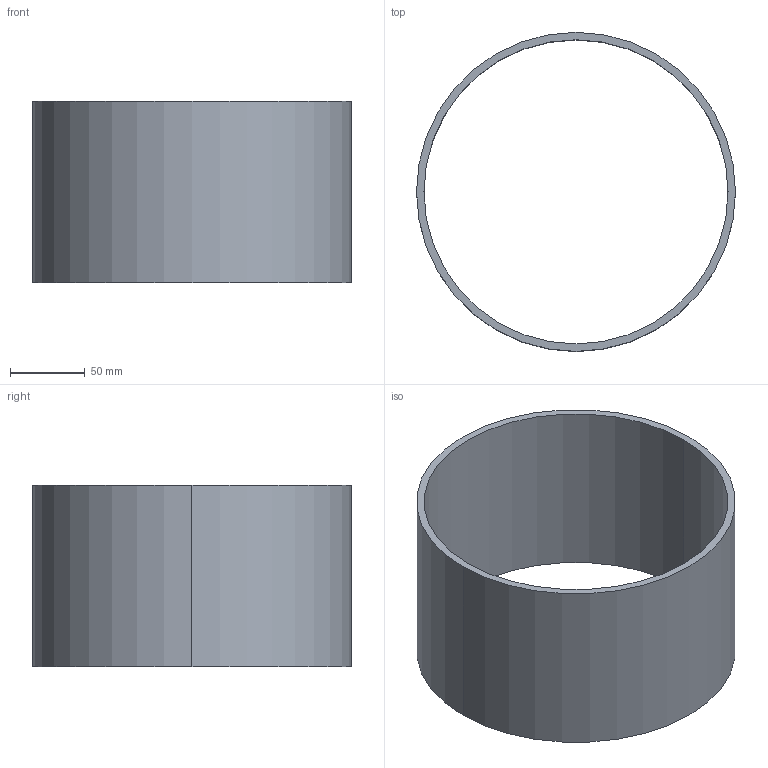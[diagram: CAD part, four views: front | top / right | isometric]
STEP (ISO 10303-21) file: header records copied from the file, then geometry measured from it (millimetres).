
FILE_DESCRIPTION(('CATIA V5 STEP Exchange'),'2;1');
FILE_NAME('C:\_Andres\UNIVERSIDAD\IQS\ASIGNATURAS\DAO\EXF\EXF-15161c\1original\Ferrer_Costa_Ej07-tabla_v7.stp','2016-03-04T21:16:33+00:00',('none'),('none'),'CATIA Version 5 Release 20 SP 1 (IN-10)','CATIA V5 STEP AP203','none');
FILE_SCHEMA(('CONFIG_CONTROL_DESIGN'));
Length unit declared in the file: millimetre
Products named in the file (1): Ferrer_Costa_Ej07-tabla_v7
Bounding box: 214 x 214 x 122 mm (x, y, z)
Volume: 400521.6 mm3; surface area: 166774.6 mm2
Topology: 1 solids, 1 shells, 6 faces, 13 edges, 10 vertices
Faces by surface type: cylinder 4, plane 2
Entity records: 208 total; most frequent: CARTESIAN_POINT 29, ORIENTED_EDGE 24, DIRECTION 23, AXIS2_PLACEMENT_3D 14, EDGE_CURVE 12, CIRCLE 8, EDGE_LOOP 8, VERTEX_POINT 8
